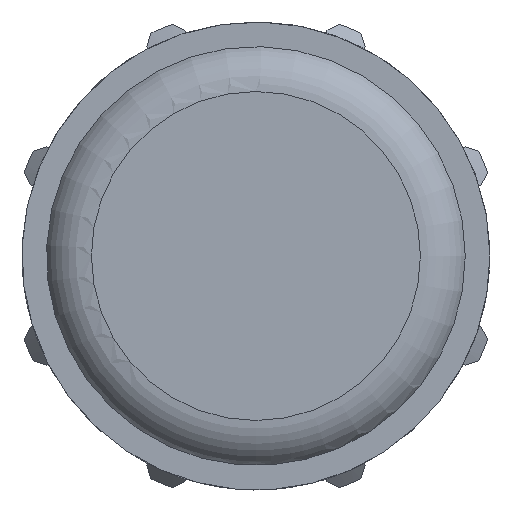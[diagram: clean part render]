
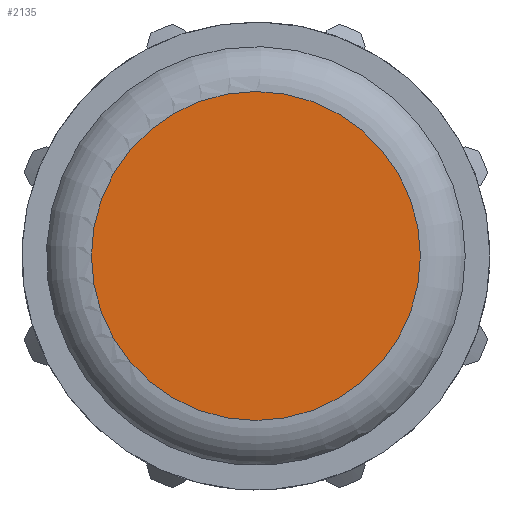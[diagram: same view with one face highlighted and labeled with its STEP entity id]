
A CAD part, left-side view. The second image highlights one B-rep face of the part: STEP entity #2135.
In plain terms, the highlighted planar face has unit normal (-1, 0, 0).
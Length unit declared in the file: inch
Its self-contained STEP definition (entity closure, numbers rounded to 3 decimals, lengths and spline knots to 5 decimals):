
#94=PLANE('',#2282);
#487=FACE_OUTER_BOUND('',#602,.T.);
#602=EDGE_LOOP('',(#1387));
#732=CIRCLE('',#2278,0.63103);
#841=VERTEX_POINT('',#3115);
#1058=EDGE_CURVE('',#841,#841,#732,.T.);
#1387=ORIENTED_EDGE('',*,*,#1058,.F.);
#2135=ADVANCED_FACE('',(#487),#94,.T.);
#2278=AXIS2_PLACEMENT_3D('',#3116,#2518,#2519);
#2282=AXIS2_PLACEMENT_3D('',#3122,#2526,#2527);
#2518=DIRECTION('center_axis',(1.,0.,0.));
#2519=DIRECTION('ref_axis',(0.,1.,0.));
#2526=DIRECTION('center_axis',(-1.,0.,0.));
#2527=DIRECTION('ref_axis',(0.,0.,1.));
#3115=CARTESIAN_POINT('',(0.,-0.63103,0.00027));
#3116=CARTESIAN_POINT('Origin',(0.,0.,0.));
#3122=CARTESIAN_POINT('Origin',(0.,0.80325,0.));
